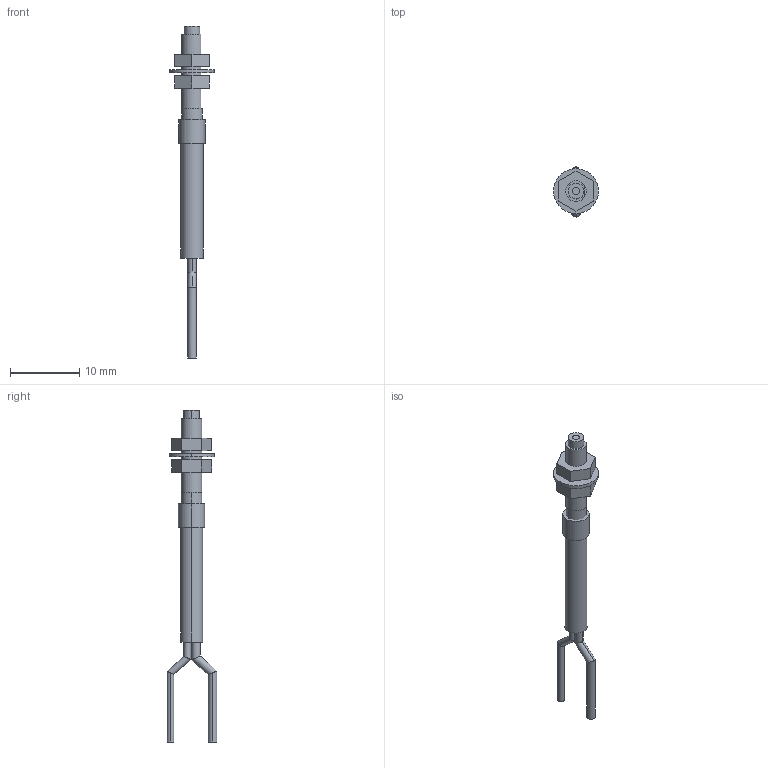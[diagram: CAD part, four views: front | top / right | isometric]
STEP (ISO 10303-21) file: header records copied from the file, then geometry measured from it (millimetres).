
FILE_DESCRIPTION (( 'STEP AP203' ), '1' );
FILE_NAME ('FD-G6.STEP', '2005-09-04T09:35:08', ( '川島良英' ), ( ' ' ), 'SwSTEP 2.0', 'SolidWorks 2004251', '' );
FILE_SCHEMA (( 'CONFIG_CONTROL_DESIGN' ));
Length unit declared in the file: millimetre
Products named in the file (1): FD-G6
Bounding box: 6.5 x 7.23 x 48.07 mm (x, y, z)
Volume: 380.5 mm3; surface area: 743.1 mm2
Topology: 6 solids, 6 shells, 61 faces, 128 edges, 84 vertices
Faces by surface type: cylinder 31, plane 30
Entity records: 1715 total; most frequent: CARTESIAN_POINT 310, DIRECTION 286, ORIENTED_EDGE 256, EDGE_CURVE 128, AXIS2_PLACEMENT_3D 108, VERTEX_POINT 84, EDGE_LOOP 72, LINE 70
